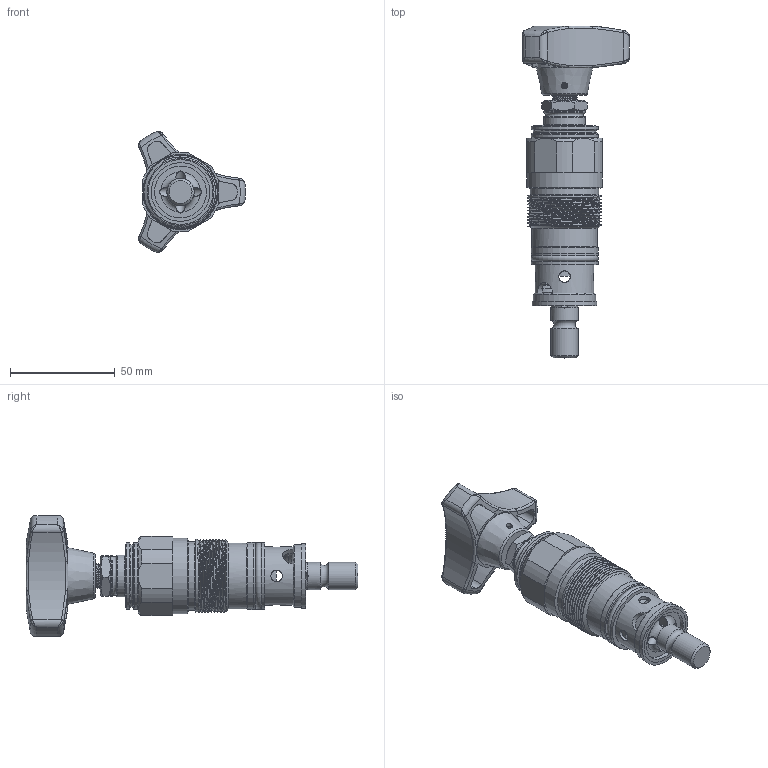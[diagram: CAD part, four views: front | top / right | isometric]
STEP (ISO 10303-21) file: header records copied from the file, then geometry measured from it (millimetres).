
FILE_DESCRIPTION(/* description */ (''),/* implementation_level */ '2;1');
FILE_NAME(/* name */ 'DBDH10K-1XJ直动型插入式溢流阀.prt.stp',/* time_stamp */ '2022-03-30T20:13:49+08:00',/* author */ (''),/* organization */ (''),/* preprocessor_version */ 'ST-DEVELOPER v16.7',/* originating_system */ 'SIEMENS PLM Software NX 12.0',/* authorisation */ '');
FILE_SCHEMA (('AUTOMOTIVE_DESIGN { 1 0 10303 214 3 1 1 1 }'));
Length unit declared in the file: millimetre
Products named in the file (1): DBDH10K-1XJ直动型插入式溢流阀
Bounding box: 51 x 158.5 x 57.72 mm (x, y, z)
Volume: 111255.8 mm3; surface area: 37447.9 mm2
Topology: 13 solids, 13 shells, 461 faces, 1120 edges, 672 vertices
Faces by surface type: plane 228, cylinder 106, bspline 52, cone 46, torus 29
Full cylindrical faces by diameter (mm): 3 x2, 3.1 x2, 4.5 x4, 5.4 x2, 5.5 x4, 6 x1, 10 x3, 10.2 x1, 13 x2, 19.7 x1, 20 x1, 22.5 x1, 24.8 x1, 25 x1, 27.3 x2, 28 x3, 30 x2, 31 x1, 31.5 x1, 32 x5, 32.9 x1, 36 x1
Entity records: 23405 total; most frequent: CARTESIAN_POINT 13763, ORIENTED_EDGE 1966, DIRECTION 1821, EDGE_CURVE 983, AXIS2_PLACEMENT_3D 751, VERTEX_POINT 638, EDGE_LOOP 577, ADVANCED_FACE 461
